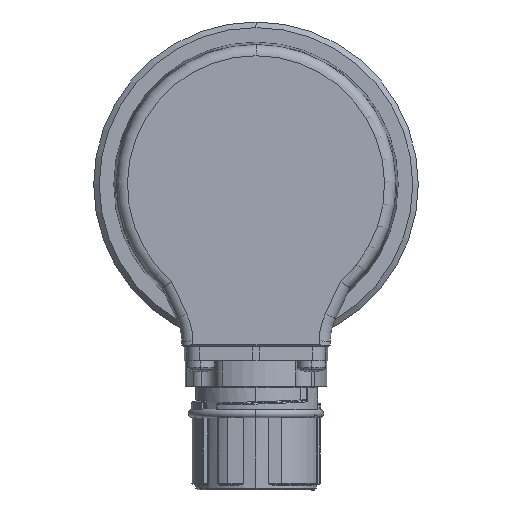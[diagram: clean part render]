
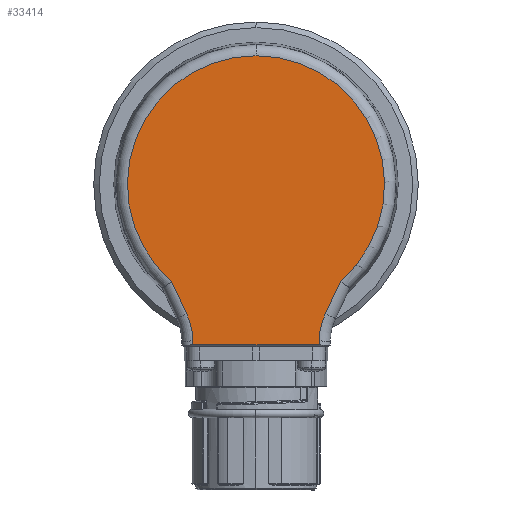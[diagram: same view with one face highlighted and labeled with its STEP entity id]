
A CAD part, left-side view. The second image highlights one B-rep face of the part: STEP entity #33414.
In plain terms, the highlighted planar face has unit normal (-1, 0, 0).
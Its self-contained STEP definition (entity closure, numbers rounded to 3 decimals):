
#880 = DIRECTION ( 'NONE',  ( 1., 0., 0. ) ) ;
#1866 = VERTEX_POINT ( 'NONE', #11325 ) ;
#2463 = VECTOR ( 'NONE', #29630, 1000. ) ;
#2479 = LINE ( 'NONE', #30534, #8602 ) ;
#2806 = VECTOR ( 'NONE', #38339, 1000. ) ;
#3223 = CIRCLE ( 'NONE', #9998, 12. ) ;
#3556 = EDGE_CURVE ( 'NONE', #36878, #34885, #34884, .T. ) ;
#3705 = EDGE_CURVE ( 'NONE', #21120, #1866, #6373, .T. ) ;
#4569 = CIRCLE ( 'NONE', #7060, 22.972 ) ;
#6373 = LINE ( 'NONE', #29798, #2463 ) ;
#6843 = EDGE_CURVE ( 'NONE', #34885, #21120, #19138, .T. ) ;
#7060 = AXIS2_PLACEMENT_3D ( 'NONE', #10096, #32373, #13347 ) ;
#7151 = DIRECTION ( 'NONE',  ( 0., 0., 1. ) ) ;
#7196 = DIRECTION ( 'NONE',  ( 1., 0., 0. ) ) ;
#7280 = CARTESIAN_POINT ( 'NONE',  ( -21., -23.266, -28.183 ) ) ;
#7549 = DIRECTION ( 'NONE',  ( -1., 0., 0. ) ) ;
#7605 = AXIS2_PLACEMENT_3D ( 'NONE', #16772, #880, #23431 ) ;
#7966 = VECTOR ( 'NONE', #9047, 1000. ) ;
#8217 = DIRECTION ( 'NONE',  ( 0., -1., 0. ) ) ;
#8602 = VECTOR ( 'NONE', #8217, 1000. ) ;
#8688 = CARTESIAN_POINT ( 'NONE',  ( -21., -11.268, -27.974 ) ) ;
#9047 = DIRECTION ( 'NONE',  ( 0., -0.017, 1. ) ) ;
#9998 = AXIS2_PLACEMENT_3D ( 'NONE', #7280, #7196, #7151 ) ;
#10096 = CARTESIAN_POINT ( 'NONE',  ( -21., 0., 0. ) ) ;
#10841 = EDGE_CURVE ( 'NONE', #26677, #41351, #3223, .T. ) ;
#11034 = ORIENTED_EDGE ( 'NONE', *, *, #3556, .T. ) ;
#11225 = AXIS2_PLACEMENT_3D ( 'NONE', #29010, #29003, #28951 ) ;
#11325 = CARTESIAN_POINT ( 'NONE',  ( -21., 11.255, -28.695 ) ) ;
#12649 = ORIENTED_EDGE ( 'NONE', *, *, #32566, .T. ) ;
#13222 = CARTESIAN_POINT ( 'NONE',  ( -21., 15.091, -17.32 ) ) ;
#13347 = DIRECTION ( 'NONE',  ( 0., 0., 1. ) ) ;
#13468 = ORIENTED_EDGE ( 'NONE', *, *, #35886, .T. ) ;
#14178 = ORIENTED_EDGE ( 'NONE', *, *, #32956, .T. ) ;
#14713 = DIRECTION ( 'NONE',  ( 0., -0.423, 0.906 ) ) ;
#15579 = CARTESIAN_POINT ( 'NONE',  ( -21., 11.268, -27.974 ) ) ;
#15797 = CIRCLE ( 'NONE', #39236, 22.972 ) ;
#16525 = LINE ( 'NONE', #18533, #7966 ) ;
#16589 = VECTOR ( 'NONE', #14713, 1000. ) ;
#16772 = CARTESIAN_POINT ( 'NONE',  ( -21., 0., 0. ) ) ;
#16989 = CARTESIAN_POINT ( 'NONE',  ( -21., -12.39, -23.112 ) ) ;
#18533 = CARTESIAN_POINT ( 'NONE',  ( -21., -11.752, -0.205 ) ) ;
#18810 = EDGE_CURVE ( 'NONE', #1866, #24553, #2479, .T. ) ;
#19063 = ORIENTED_EDGE ( 'NONE', *, *, #28732, .T. ) ;
#19138 = CIRCLE ( 'NONE', #11225, 12. ) ;
#19462 = CARTESIAN_POINT ( 'NONE',  ( -21., 0., 22.972 ) ) ;
#20232 = PLANE ( 'NONE',  #7605 ) ;
#21120 = VERTEX_POINT ( 'NONE', #15579 ) ;
#21516 = CARTESIAN_POINT ( 'NONE',  ( -21., -11.255, -28.695 ) ) ;
#22753 = VERTEX_POINT ( 'NONE', #19462 ) ;
#23091 = ORIENTED_EDGE ( 'NONE', *, *, #3705, .T. ) ;
#23431 = DIRECTION ( 'NONE',  ( 0., 0., 1. ) ) ;
#24122 = CARTESIAN_POINT ( 'NONE',  ( -21., 12.39, -23.112 ) ) ;
#24393 = ORIENTED_EDGE ( 'NONE', *, *, #18810, .T. ) ;
#24553 = VERTEX_POINT ( 'NONE', #21516 ) ;
#26677 = VERTEX_POINT ( 'NONE', #8688 ) ;
#26704 = CARTESIAN_POINT ( 'NONE',  ( -21., 0., 0. ) ) ;
#28732 = EDGE_CURVE ( 'NONE', #24553, #26677, #16525, .T. ) ;
#28951 = DIRECTION ( 'NONE',  ( 0., 0., 1. ) ) ;
#29003 = DIRECTION ( 'NONE',  ( 1., 0., 0. ) ) ;
#29010 = CARTESIAN_POINT ( 'NONE',  ( -21., 23.266, -28.183 ) ) ;
#29612 = VERTEX_POINT ( 'NONE', #36350 ) ;
#29630 = DIRECTION ( 'NONE',  ( 0., -0.017, -1. ) ) ;
#29798 = CARTESIAN_POINT ( 'NONE',  ( -21., 11.752, -0.205 ) ) ;
#29895 = DIRECTION ( 'NONE',  ( 0., 0., 1. ) ) ;
#30534 = CARTESIAN_POINT ( 'NONE',  ( -21., -11.25, -28.695 ) ) ;
#32108 = EDGE_LOOP ( 'NONE', ( #23091, #24393, #19063, #39721, #13468, #14178, #12649, #11034, #35979 ) ) ;
#32373 = DIRECTION ( 'NONE',  ( -1., 0., 0. ) ) ;
#32566 = EDGE_CURVE ( 'NONE', #22753, #36878, #15797, .T. ) ;
#32956 = EDGE_CURVE ( 'NONE', #29612, #22753, #4569, .T. ) ;
#33414 = ADVANCED_FACE ( 'NONE', ( #33641 ), #20232, .F. ) ;
#33641 = FACE_OUTER_BOUND ( 'NONE', #32108, .T. ) ;
#33725 = CARTESIAN_POINT ( 'NONE',  ( -21., -14.953, -17.615 ) ) ;
#34884 = LINE ( 'NONE', #38561, #2806 ) ;
#34885 = VERTEX_POINT ( 'NONE', #24122 ) ;
#35886 = EDGE_CURVE ( 'NONE', #41351, #29612, #40760, .T. ) ;
#35979 = ORIENTED_EDGE ( 'NONE', *, *, #6843, .T. ) ;
#36350 = CARTESIAN_POINT ( 'NONE',  ( -21., -15.091, -17.32 ) ) ;
#36878 = VERTEX_POINT ( 'NONE', #13222 ) ;
#38339 = DIRECTION ( 'NONE',  ( 0., -0.423, -0.906 ) ) ;
#38561 = CARTESIAN_POINT ( 'NONE',  ( -21., 12.39, -23.112 ) ) ;
#39236 = AXIS2_PLACEMENT_3D ( 'NONE', #26704, #7549, #29895 ) ;
#39721 = ORIENTED_EDGE ( 'NONE', *, *, #10841, .T. ) ;
#40760 = LINE ( 'NONE', #33725, #16589 ) ;
#41351 = VERTEX_POINT ( 'NONE', #16989 ) ;
